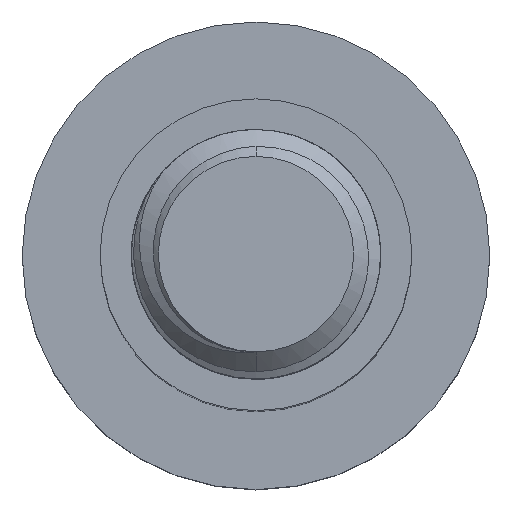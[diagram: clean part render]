
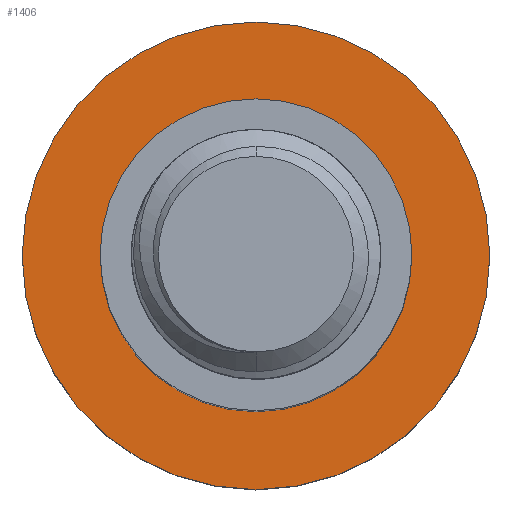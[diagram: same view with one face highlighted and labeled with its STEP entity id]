
A CAD part, top view. The second image highlights one B-rep face of the part: STEP entity #1406.
In plain terms, the highlighted planar face has unit normal (0, 0, 1).
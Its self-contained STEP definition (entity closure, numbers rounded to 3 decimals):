
#92 = VERTEX_POINT ( 'NONE', #834 ) ;
#442 = CARTESIAN_POINT ( 'NONE',  ( -15., 0., -40. ) ) ;
#593 = CARTESIAN_POINT ( 'NONE',  ( 0., 0., -40. ) ) ;
#834 = CARTESIAN_POINT ( 'NONE',  ( -10., 0., -40. ) ) ;
#1406 = ADVANCED_FACE ( 'NONE', ( #2030, #3378 ), #4240, .F. ) ;
#1449 = EDGE_LOOP ( 'NONE', ( #1668, #3659 ) ) ;
#1508 = CIRCLE ( 'NONE', #2255, 10. ) ;
#1515 = DIRECTION ( 'NONE',  ( -1., 0., 0. ) ) ;
#1668 = ORIENTED_EDGE ( 'NONE', *, *, #5514, .T. ) ;
#1729 = CARTESIAN_POINT ( 'NONE',  ( 0., 0., -40. ) ) ;
#1793 = VERTEX_POINT ( 'NONE', #442 ) ;
#2030 = FACE_BOUND ( 'NONE', #1449, .T. ) ;
#2255 = AXIS2_PLACEMENT_3D ( 'NONE', #2578, #4354, #3520 ) ;
#2260 = VERTEX_POINT ( 'NONE', #2850 ) ;
#2279 = CARTESIAN_POINT ( 'NONE',  ( 15., 0., -40. ) ) ;
#2403 = DIRECTION ( 'NONE',  ( 0., 0., -1. ) ) ;
#2411 = EDGE_CURVE ( 'NONE', #2260, #92, #4371, .T. ) ;
#2514 = CIRCLE ( 'NONE', #3079, 15. ) ;
#2578 = CARTESIAN_POINT ( 'NONE',  ( 0., 0., -40. ) ) ;
#2809 = CIRCLE ( 'NONE', #5302, 15. ) ;
#2850 = CARTESIAN_POINT ( 'NONE',  ( 10., 0., -40. ) ) ;
#3079 = AXIS2_PLACEMENT_3D ( 'NONE', #1729, #3822, #4312 ) ;
#3378 = FACE_OUTER_BOUND ( 'NONE', #3681, .T. ) ;
#3520 = DIRECTION ( 'NONE',  ( -1., 0., 0. ) ) ;
#3659 = ORIENTED_EDGE ( 'NONE', *, *, #2411, .T. ) ;
#3681 = EDGE_LOOP ( 'NONE', ( #4434, #5613 ) ) ;
#3737 = EDGE_CURVE ( 'NONE', #5320, #1793, #2514, .T. ) ;
#3822 = DIRECTION ( 'NONE',  ( 0., 0., -1. ) ) ;
#4240 = PLANE ( 'NONE',  #5293 ) ;
#4312 = DIRECTION ( 'NONE',  ( -1., 0., 0. ) ) ;
#4354 = DIRECTION ( 'NONE',  ( 0., 0., -1. ) ) ;
#4371 = CIRCLE ( 'NONE', #5197, 10. ) ;
#4419 = EDGE_CURVE ( 'NONE', #1793, #5320, #2809, .T. ) ;
#4434 = ORIENTED_EDGE ( 'NONE', *, *, #3737, .F. ) ;
#4538 = DIRECTION ( 'NONE',  ( 0., 0., -1. ) ) ;
#4947 = DIRECTION ( 'NONE',  ( -1., 0., 0. ) ) ;
#5030 = DIRECTION ( 'NONE',  ( -1., 0., 0. ) ) ;
#5051 = CARTESIAN_POINT ( 'NONE',  ( 0., 0., -40. ) ) ;
#5197 = AXIS2_PLACEMENT_3D ( 'NONE', #5051, #2403, #4947 ) ;
#5293 = AXIS2_PLACEMENT_3D ( 'NONE', #5488, #5541, #1515 ) ;
#5302 = AXIS2_PLACEMENT_3D ( 'NONE', #593, #4538, #5030 ) ;
#5320 = VERTEX_POINT ( 'NONE', #2279 ) ;
#5488 = CARTESIAN_POINT ( 'NONE',  ( 0., 0., -40. ) ) ;
#5514 = EDGE_CURVE ( 'NONE', #92, #2260, #1508, .T. ) ;
#5541 = DIRECTION ( 'NONE',  ( 0., 0., -1. ) ) ;
#5613 = ORIENTED_EDGE ( 'NONE', *, *, #4419, .F. ) ;
